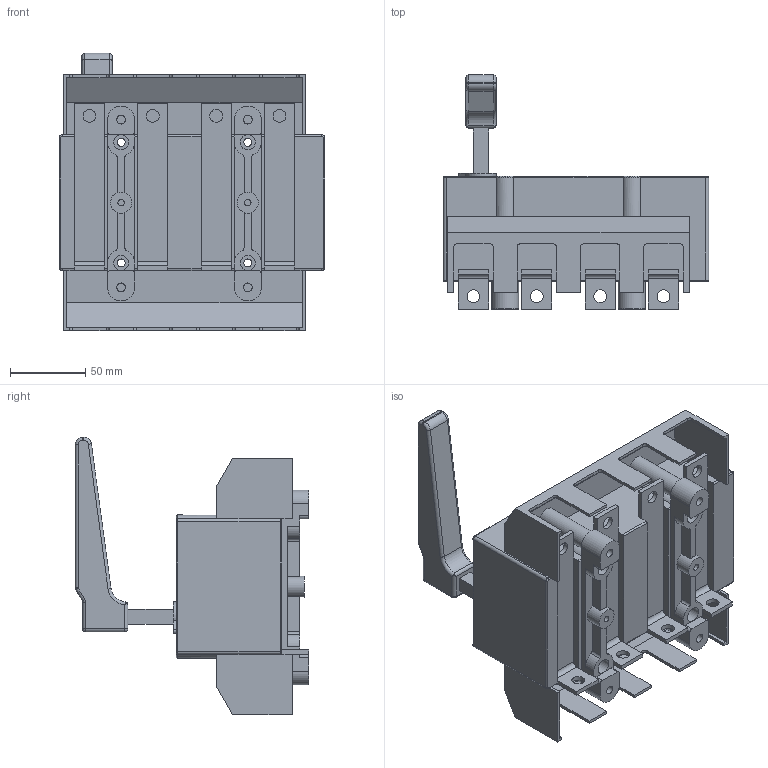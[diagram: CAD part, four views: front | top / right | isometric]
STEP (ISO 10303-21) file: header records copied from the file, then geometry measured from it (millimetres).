
FILE_DESCRIPTION(/* description */ (''),/* implementation_level */ '2;1');
FILE_NAME(/* name */ 'RA160 P3 NB-R z oslona zaciskow.stp',/* time_stamp */ '2021-08-17T14:06:18+02:00',/* author */ (''),/* organization */ (''),/* preprocessor_version */ 'ST-DEVELOPER v18.1',/* originating_system */ 'SIEMENS PLM Software NX 1965',/* authorisation */ '');
FILE_SCHEMA (('AUTOMOTIVE_DESIGN { 1 0 10303 214 3 1 1 1 }'));
Length unit declared in the file: millimetre
Products named in the file (1): RA160 P3 NB-R z oslona zaciskow
Bounding box: 176 x 155 x 183.9 mm (x, y, z)
Volume: 1251613.6 mm3; surface area: 169769.5 mm2
Topology: 1 solids, 1 shells, 362 faces, 1011 edges, 652 vertices
Faces by surface type: plane 186, cylinder 150, torus 12, bspline 8, sphere 6
Full cylindrical faces by diameter (mm): 4.3 x2, 5.3 x4, 5.8 x4, 8.5 x8, 10 x12, 13 x4, 14 x2
Entity records: 11716 total; most frequent: CARTESIAN_POINT 2358, DIRECTION 1969, ORIENTED_EDGE 1898, EDGE_CURVE 949, AXIS2_PLACEMENT_3D 687, VERTEX_POINT 624, LINE 595, VECTOR 595
